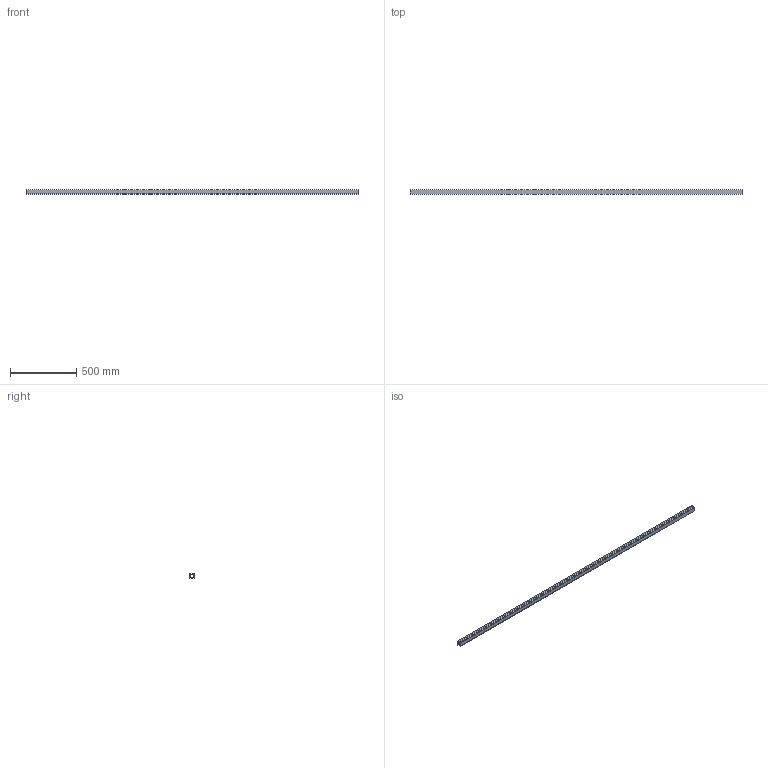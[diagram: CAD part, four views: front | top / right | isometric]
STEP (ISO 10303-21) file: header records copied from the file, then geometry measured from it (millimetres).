
FILE_DESCRIPTION(('STEP AP242'),'1');
FILE_NAME('OPO_65.081.12_volu_schn_3d.stp','2026-01-30T20:49:06',(' '),(' '),'Spatial InterOp 3D',' ',' ');
FILE_SCHEMA(('AP242_MANAGED_MODEL_BASED_3D_ENGINEERING_MIM_LF {1 0 10303 442 1 1 4}'));
Length unit declared in the file: millimetre
Products named in the file (1): 1
Bounding box: 2500 x 34 x 33 mm (x, y, z)
Volume: 685468.7 mm3; surface area: 616575.3 mm2
Topology: 1 solids, 1 shells, 92 faces, 443 edges, 544 vertices
Faces by surface type: plane 72, cylinder 20
Entity records: 5947 total; most frequent: CARTESIAN_POINT 707, DIRECTION 691, ORIENTED_EDGE 512, LINE 383, VECTOR 383, STYLED_ITEM 279, PRESENTATION_STYLE_ASSIGNMENT 279, COLOUR_RGB 279
